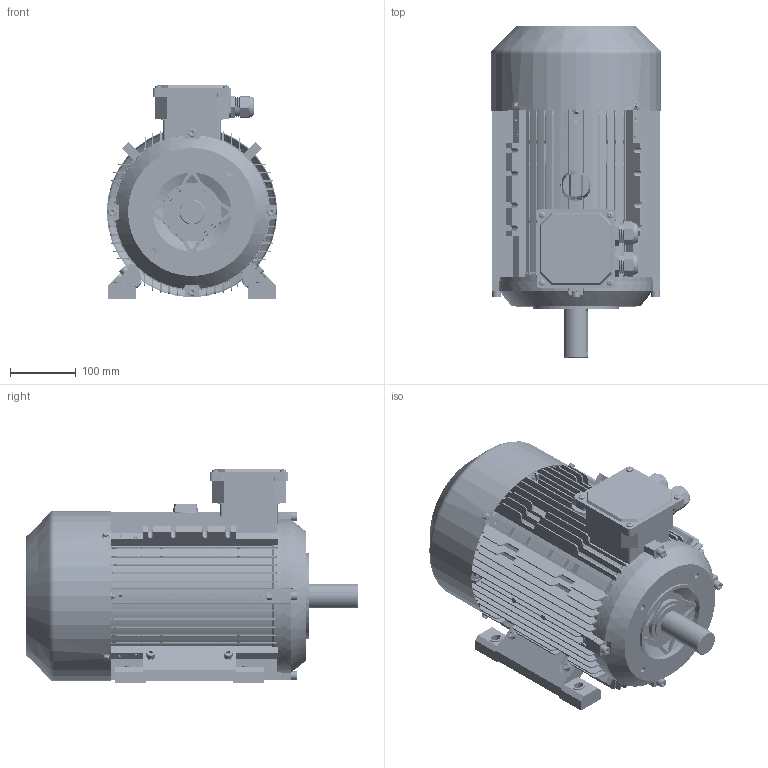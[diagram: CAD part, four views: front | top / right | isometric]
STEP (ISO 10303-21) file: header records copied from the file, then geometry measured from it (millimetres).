
FILE_DESCRIPTION (( 'STEP AP203' ), '1' );
FILE_NAME ('ME3-132M B34 3D.STEP', '2024-07-27T02:05:29', ( 'User' ), ( 'China' ), 'SwSTEP 2.0', 'SolidWorks 2018', '' );
FILE_SCHEMA (( 'CONFIG_CONTROL_DESIGN' ));
Length unit declared in the file: millimetre
Products named in the file (19): deep groove ball bearings gb_Rolling bearings 6308 GB 276-94; ME3-132瑞欶; ME3-132M蛌粣; hex flange bolts-heavy grade b gb_GB_FASTENER_BOLT_HFBB M5X10-S; MS112-132 諉盄碟釱; MS112-132諉盄碟裔; M24 蹟杶; cross recessed pan head screws gb_GB_CROSS_SCREWS_TYPE1 M5X6-6  H type-S; M24 蹟杶簸; 40X58X7蚐猾; spring lock washers--normal type gb_GB_FASTENER_WASHER_SW 8; ME3-132M儂褲; ME3-132B14傷裔; hexagon socket head cap screws gb_GB_FASTENER_SCREWS_HSHCS M8X30-S; ME3-132M菁褐; ME3-132M B34  3D; hexagon socket head cap screws gb_GB_FASTENER_SCREWS_HSHCS M8X40-S; ME3-132 B3傷裔; hex nuts-style normal-grades ab gb_GB_HEXAGON_TYPE10 M8X1-S
Assembly tree (51 placements, depth 2):
  ME3-132M B34  3D
    ME3-132M儂褲
    ME3-132M菁褐  x2
    ME3-132 B3傷裔
    deep groove ball bearings gb_Rolling bearings 6308 GB 276-94  x2
    ME3-132M蛌粣
    MS112-132 諉盄碟釱
    M24 蹟杶  x2
    M24 蹟杶簸  x2
    spring lock washers--normal type gb_GB_FASTENER_WASHER_SW 8  x4
    hexagon socket head cap screws gb_GB_FASTENER_SCREWS_HSHCS M8X30-S  x5
    hexagon socket head cap screws gb_GB_FASTENER_SCREWS_HSHCS M8X40-S  x7
    hex nuts-style normal-grades ab gb_GB_HEXAGON_TYPE10 M8X1-S  x11
    ME3-132瑞欶
    hex flange bolts-heavy grade b gb_GB_FASTENER_BOLT_HFBB M5X10-S  x4
    MS112-132諉盄碟裔
    cross recessed pan head screws gb_GB_CROSS_SCREWS_TYPE1 M5X6-6  H type-S  x4
    40X58X7蚐猾
    ME3-132B14傷裔
Bounding box: 259.6 x 505.15 x 325 mm (x, y, z)
Volume: 3795812.5 mm3; surface area: 1910871.7 mm2
Topology: 53 solids, 54 shells, 8051 faces, 19774 edges, 11809 vertices
Faces by surface type: cone 2870, plane 2576, cylinder 2249, torus 242, sphere 68, bspline 46
Entity records: 141790 total; most frequent: CARTESIAN_POINT 35700, ORIENTED_EDGE 22256, DIRECTION 20668, EDGE_CURVE 11128, VERTEX_POINT 7131, VECTOR 6920, LINE 6920, AXIS2_PLACEMENT_3D 6874
